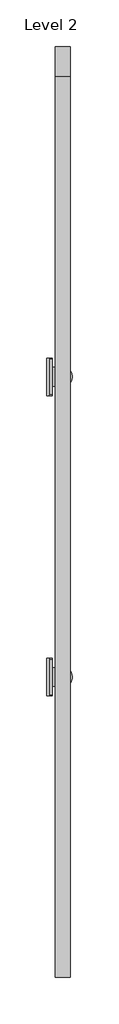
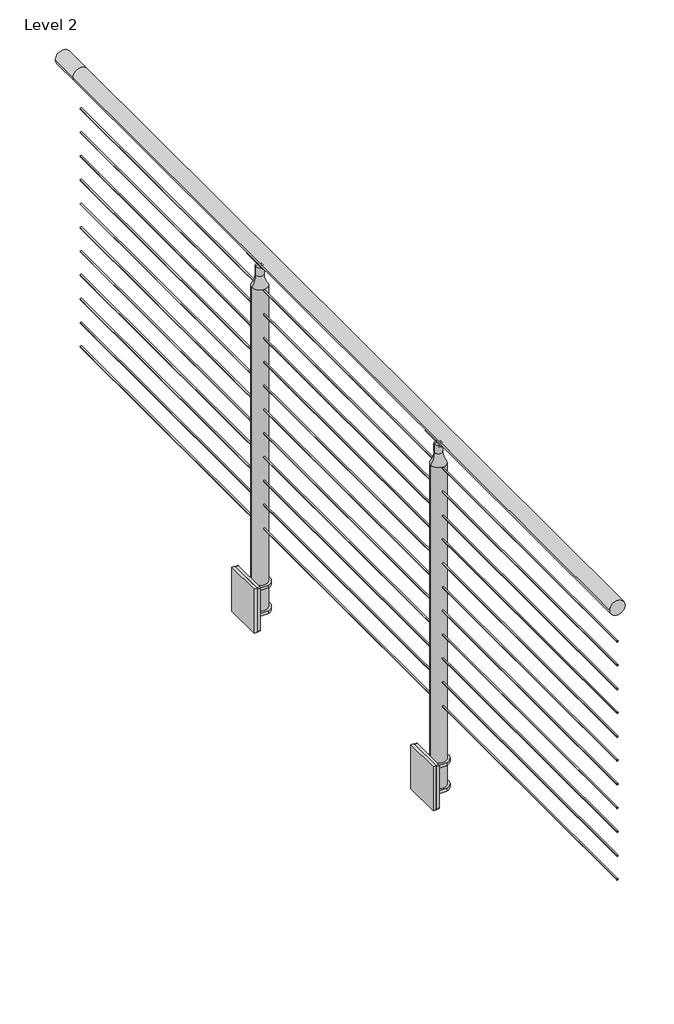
# One storey, part 3 of 21: 1 railing.
"""IFC4 building model written with IfcOpenShell, lengths in millimetres."""

from ifc_helpers import new_model, si_unit, point, frame, frame_2d, origin, place, context, project, spatial, polyline, circle_curve, ellipse_curve, trimmed, segment, composite_curve, outline, extrude, element, save
from ifc_brep_helpers import plane_surface, cylinder_surface, revolved_surface, advanced_brep

model = new_model("IFC4")

# Units and contexts
model_context = context("Model", 3, world=origin())
ifc_project = project(units=[si_unit("LENGTHUNIT", "METRE", prefix="MILLI")], contexts=[model_context])

# Site, building, storey
site = spatial("IfcSite", under=ifc_project)
building = spatial("IfcBuilding", under=site)
storey = spatial("IfcBuildingStorey", under=building, Name="Level 2", Elevation=3048.0)

# Railing
placement = place(None, origin())
element("IfcRailing", 1, ObjectType="VIVA-CIRCA-Cable-Fascia Mount-Straight", at=placement, inside=storey, context=model_context, shape_type="SolidModel", body=[
    advanced_brep(
    [(-3550.7164794, -51790.9556522, 4102.1), (-3601.5164794, -51790.9556522, 4102.1), (-3550.7164794, -48742.9556522, 4102.1), (-3601.5164794, -48742.9556522, 4102.1), (-3550.7164794, -48641.3556522, 4102.1), (-3601.5164794, -48641.3556522, 4102.1)],
    [
        (0, 1, circle_curve(frame((-3576.1164794, -51790.9556522, 4102.1), z_axis=(0.0, -1.0, 0.0), x_axis=(-1.0, 0.0, 0.0)), 25.4)),
        (1, 0, circle_curve(frame((-3576.1164794, -51790.9556522, 4102.1), z_axis=(0.0, -1.0, 0.0), x_axis=(-1.0, 0.0, 0.0)), 25.4)),
        (0, 2),
        (2, 3, circle_curve(frame((-3576.1164794, -48742.9556522, 4102.1), z_axis=(0.0, -1.0, 0.0), x_axis=(-1.0, 0.0, 0.0)), 25.4)),
        (3, 1),
        (3, 2, circle_curve(frame((-3576.1164794, -48742.9556522, 4102.1), z_axis=(0.0, -1.0, 0.0), x_axis=(-1.0, 0.0, 0.0)), 25.4)),
        (4, 5, circle_curve(frame((-3576.1164794, -48641.3556522, 4102.1), z_axis=(0.0, 1.0, 0.0), x_axis=(-1.0, 0.0, 0.0)), 25.4)),
        (5, 4, circle_curve(frame((-3576.1164794, -48641.3556522, 4102.1), z_axis=(0.0, 1.0, 0.0), x_axis=(-1.0, 0.0, 0.0)), 25.4)),
        (2, 4),
        (5, 3),
    ],
    [
        plane_surface(frame((-3576.1164794, -51790.9556522, 4127.5), z_axis=(0.0, -1.0, 0.0), x_axis=(0.0, 0.0, 1.0))),
        cylinder_surface(frame((-3576.1164794, -51790.9556522, 4102.1), z_axis=(0.0, -1.0, 0.0), x_axis=(-1.0, 0.0, 0.0)), 25.4),
        plane_surface(frame((-3576.1164794, -48641.3556522, 4127.5), z_axis=(0.0, 1.0, 0.0), x_axis=(0.0, 0.0, 1.0))),
        cylinder_surface(frame((-3576.1164794, -48742.9556522, 4102.1), z_axis=(0.0, -1.0, 0.0), x_axis=(-1.0, 0.0, 0.0)), 25.4),
    ],
    [
        (0, [[1, 2]]),
        (1, [[-1, 3, 4, 5]]),
        (1, [[-2, -5, 6, -3]]),
        (2, [[7, 8]]),
        (3, [[-4, 9, -8, 10]]),
        (3, [[-6, -10, -7, -9]]),
    ],
),
    extrude(outline(composite_curve([segment(trimmed(circle_curve(frame_2d((3985.4124, -3576.1164794)), 2.3876), [point((3985.4124, -3578.5040794))], [point((3985.4124, -3573.7288794))], False, "CARTESIAN"), True, "CONTINUOUS"), segment(trimmed(circle_curve(frame_2d((3985.4124, -3576.1164794)), 2.3876), [point((3985.4124, -3573.7288794))], [point((3985.4124, -3578.5040794))], False, "CARTESIAN"), True, "CONTINUOUS")], self_intersect=False)), frame((0.0, -51790.9556522, 0.0), z_axis=(0.0, 1.0, 0.0), x_axis=(0.0, 0.0, 1.0)), (0.0, 0.0, 1.0), 3048.0),
    extrude(outline(composite_curve([segment(trimmed(circle_curve(frame_2d((3902.8624, -3576.1164794)), 2.3876), [point((3902.8624, -3578.5040794))], [point((3902.8624, -3573.7288794))], False, "CARTESIAN"), True, "CONTINUOUS"), segment(trimmed(circle_curve(frame_2d((3902.8624, -3576.1164794)), 2.3876), [point((3902.8624, -3573.7288794))], [point((3902.8624, -3578.5040794))], False, "CARTESIAN"), True, "CONTINUOUS")], self_intersect=False)), frame((0.0, -51790.9556522, 0.0), z_axis=(0.0, 1.0, 0.0), x_axis=(0.0, 0.0, 1.0)), (0.0, 0.0, 1.0), 3048.0),
    extrude(outline(composite_curve([segment(trimmed(circle_curve(frame_2d((3820.3124, -3576.1164794)), 2.3876), [point((3820.3124, -3578.5040794))], [point((3820.3124, -3573.7288794))], False, "CARTESIAN"), True, "CONTINUOUS"), segment(trimmed(circle_curve(frame_2d((3820.3124, -3576.1164794)), 2.3876), [point((3820.3124, -3573.7288794))], [point((3820.3124, -3578.5040794))], False, "CARTESIAN"), True, "CONTINUOUS")], self_intersect=False)), frame((0.0, -51790.9556522, 0.0), z_axis=(0.0, 1.0, 0.0), x_axis=(0.0, 0.0, 1.0)), (0.0, 0.0, 1.0), 3048.0),
    extrude(outline(composite_curve([segment(trimmed(circle_curve(frame_2d((3737.7624, -3576.1164794)), 2.3876), [point((3737.7624, -3578.5040794))], [point((3737.7624, -3573.7288794))], False, "CARTESIAN"), True, "CONTINUOUS"), segment(trimmed(circle_curve(frame_2d((3737.7624, -3576.1164794)), 2.3876), [point((3737.7624, -3573.7288794))], [point((3737.7624, -3578.5040794))], False, "CARTESIAN"), True, "CONTINUOUS")], self_intersect=False)), frame((0.0, -51790.9556522, 0.0), z_axis=(0.0, 1.0, 0.0), x_axis=(0.0, 0.0, 1.0)), (0.0, 0.0, 1.0), 3048.0),
    extrude(outline(composite_curve([segment(trimmed(circle_curve(frame_2d((3655.2124, -3576.1164794)), 2.3876), [point((3655.2124, -3578.5040794))], [point((3655.2124, -3573.7288794))], False, "CARTESIAN"), True, "CONTINUOUS"), segment(trimmed(circle_curve(frame_2d((3655.2124, -3576.1164794)), 2.3876), [point((3655.2124, -3573.7288794))], [point((3655.2124, -3578.5040794))], False, "CARTESIAN"), True, "CONTINUOUS")], self_intersect=False)), frame((0.0, -51790.9556522, 0.0), z_axis=(0.0, 1.0, 0.0), x_axis=(0.0, 0.0, 1.0)), (0.0, 0.0, 1.0), 3048.0),
    extrude(outline(composite_curve([segment(trimmed(circle_curve(frame_2d((3572.6624, -3576.1164794)), 2.3876), [point((3572.6624, -3578.5040794))], [point((3572.6624, -3573.7288794))], False, "CARTESIAN"), True, "CONTINUOUS"), segment(trimmed(circle_curve(frame_2d((3572.6624, -3576.1164794)), 2.3876), [point((3572.6624, -3573.7288794))], [point((3572.6624, -3578.5040794))], False, "CARTESIAN"), True, "CONTINUOUS")], self_intersect=False)), frame((0.0, -51790.9556522, 0.0), z_axis=(0.0, 1.0, 0.0), x_axis=(0.0, 0.0, 1.0)), (0.0, 0.0, 1.0), 3048.0),
    extrude(outline(composite_curve([segment(trimmed(circle_curve(frame_2d((3490.1124, -3576.1164794)), 2.3876), [point((3490.1124, -3578.5040794))], [point((3490.1124, -3573.7288794))], False, "CARTESIAN"), True, "CONTINUOUS"), segment(trimmed(circle_curve(frame_2d((3490.1124, -3576.1164794)), 2.3876), [point((3490.1124, -3573.7288794))], [point((3490.1124, -3578.5040794))], False, "CARTESIAN"), True, "CONTINUOUS")], self_intersect=False)), frame((0.0, -51790.9556522, 0.0), z_axis=(0.0, 1.0, 0.0), x_axis=(0.0, 0.0, 1.0)), (0.0, 0.0, 1.0), 3048.0),
    extrude(outline(composite_curve([segment(trimmed(circle_curve(frame_2d((3407.5624, -3576.1164794)), 2.3876), [point((3407.5624, -3578.5040794))], [point((3407.5624, -3573.7288794))], False, "CARTESIAN"), True, "CONTINUOUS"), segment(trimmed(circle_curve(frame_2d((3407.5624, -3576.1164794)), 2.3876), [point((3407.5624, -3573.7288794))], [point((3407.5624, -3578.5040794))], False, "CARTESIAN"), True, "CONTINUOUS")], self_intersect=False)), frame((0.0, -51790.9556522, 0.0), z_axis=(0.0, 1.0, 0.0), x_axis=(0.0, 0.0, 1.0)), (0.0, 0.0, 1.0), 3048.0),
    extrude(outline(composite_curve([segment(trimmed(circle_curve(frame_2d((3325.0124, -3576.1164794)), 2.3876), [point((3325.0124, -3578.5040794))], [point((3325.0124, -3573.7288794))], False, "CARTESIAN"), True, "CONTINUOUS"), segment(trimmed(circle_curve(frame_2d((3325.0124, -3576.1164794)), 2.3876), [point((3325.0124, -3573.7288794))], [point((3325.0124, -3578.5040794))], False, "CARTESIAN"), True, "CONTINUOUS")], self_intersect=False)), frame((0.0, -51790.9556522, 0.0), z_axis=(0.0, 1.0, 0.0), x_axis=(0.0, 0.0, 1.0)), (0.0, 0.0, 1.0), 3048.0),
    extrude(outline(composite_curve([segment(trimmed(circle_curve(frame_2d((3242.4624, -3576.1164794)), 2.3876), [point((3242.4624, -3578.5040794))], [point((3242.4624, -3573.7288794))], False, "CARTESIAN"), True, "CONTINUOUS"), segment(trimmed(circle_curve(frame_2d((3242.4624, -3576.1164794)), 2.3876), [point((3242.4624, -3573.7288794))], [point((3242.4624, -3578.5040794))], False, "CARTESIAN"), True, "CONTINUOUS")], self_intersect=False)), frame((0.0, -51790.9556522, 0.0), z_axis=(0.0, 1.0, 0.0), x_axis=(0.0, 0.0, 1.0)), (0.0, 0.0, 1.0), 3048.0),
    extrude(outline(composite_curve([segment(trimmed(circle_curve(frame_2d((3159.9124, -3576.1164794)), 2.3876), [point((3159.9124, -3578.5040794))], [point((3159.9124, -3573.7288794))], False, "CARTESIAN"), True, "CONTINUOUS"), segment(trimmed(circle_curve(frame_2d((3159.9124, -3576.1164794)), 2.3876), [point((3159.9124, -3573.7288794))], [point((3159.9124, -3578.5040794))], False, "CARTESIAN"), True, "CONTINUOUS")], self_intersect=False)), frame((0.0, -51790.9556522, 0.0), z_axis=(0.0, 1.0, 0.0), x_axis=(0.0, 0.0, 1.0)), (0.0, 0.0, 1.0), 3048.0),
    extrude(outline(composite_curve([segment(trimmed(circle_curve(frame_2d((4103.4254922, -3576.2132077)), 25.4345159), [point((4081.3106679, -3563.6494049))], [point((4081.2157471, -3588.6084415))], True, "CARTESIAN"), True, "CONTINUOUS"), segment(trimmed(circle_curve(frame_2d((4078.7132623, -3589.8530946)), 2.7949225), [point((4081.2157471, -3588.6084415))], [point((4076.3406769, -3591.3303997))], False, "CARTESIAN"), True, "CONTINUOUS"), segment(trimmed(circle_curve(frame_2d((4104.1881188, -3576.0797447)), 31.75), [point((4076.3406769, -3591.3303997))], [point((4076.9214354, -3559.8135074))], False, "CARTESIAN"), True, "CONTINUOUS"), segment(trimmed(circle_curve(frame_2d((4078.7923545, -3562.1018472)), 2.9558141), [point((4076.9214354, -3559.8135074))], [point((4081.3106679, -3563.6494049))], False, "CARTESIAN"), True, "CONTINUOUS")], self_intersect=False)), frame((0.0, -49803.7961772, 0.0), z_axis=(0.0, 1.0, 0.0), x_axis=(0.0, 0.0, 1.0)), (0.0, 0.0, 1.0), 90.4748),
    advanced_brep(
    [(-3578.6564794, -49731.4908623, 4072.6506908), (-3578.6564794, -49745.8587772, 4058.282776), (-3578.6564794, -49771.2587772, 4058.282776), (-3578.6564794, -49785.626692, 4072.6506908), (-3573.5764794, -49731.4908623, 4072.6506908), (-3573.5764794, -49785.626692, 4072.6506908), (-3573.5764794, -49771.2587772, 4058.282776), (-3573.5764794, -49745.8587772, 4058.282776)],
    [
        (0, 1, circle_curve(frame((-3578.6564794, -49731.4908623, 4058.282776), z_axis=(1.0, 0.0, 0.0), x_axis=(0.0, -1.0, 0.0)), 14.3679149)),
        (1, 2, circle_curve(frame((-3578.6564794, -49758.5587772, 4058.282776), z_axis=(-1.0, 0.0, 0.0), x_axis=(0.0, -1.0, 0.0)), 12.7)),
        (2, 3, circle_curve(frame((-3578.6564794, -49785.626692, 4058.282776), z_axis=(1.0, 0.0, 0.0), x_axis=(0.0, -1.0, 0.0)), 14.3679149)),
        (3, 0),
        (4, 5),
        (5, 6, circle_curve(frame((-3573.5764794, -49785.626692, 4058.282776), z_axis=(-1.0, 0.0, 0.0), x_axis=(0.0, -1.0, 0.0)), 14.3679149)),
        (6, 7, circle_curve(frame((-3573.5764794, -49758.5587772, 4058.282776), z_axis=(1.0, 0.0, 0.0), x_axis=(0.0, -1.0, 0.0)), 12.7)),
        (7, 4, circle_curve(frame((-3573.5764794, -49731.4908623, 4058.282776), z_axis=(-1.0, 0.0, 0.0), x_axis=(0.0, -1.0, 0.0)), 14.3679149)),
        (0, 4),
        (7, 1),
        (6, 2),
        (5, 3),
    ],
    [
        plane_surface(frame((-3578.6564794, -49745.8587772, 4058.282776), z_axis=(-1.0, 0.0, 0.0), x_axis=(0.0, 0.0, -1.0))),
        plane_surface(frame((-3573.5764794, -49745.8587772, 4058.282776), z_axis=(1.0, 0.0, 0.0), x_axis=(0.0, 0.0, 1.0))),
        revolved_surface(polyline([(-3573.5764794, -49745.8587772, 4058.282776), (-3578.6564794, -49745.8587772, 4058.282776)]), (-3573.5764794, -49731.4908623, 4058.282776), (1.0, 0.0, 0.0)),
        cylinder_surface(frame((-3573.5764794, -49758.5587772, 4058.282776), z_axis=(-1.0, 0.0, 0.0), x_axis=(0.0, -1.0, 0.0)), 12.7),
        revolved_surface(polyline([(-3573.5764794, -49799.9946069, 4058.282776), (-3578.6564794, -49799.9946069, 4058.282776)]), (-3573.5764794, -49785.626692, 4058.282776), (1.0, 0.0, 0.0)),
        plane_surface(frame((-3578.6564794, -49785.626692, 4072.6506908), z_axis=(0.0, 0.0, 1.0), x_axis=(1.0, 0.0, 0.0))),
    ],
    [
        (0, [[1, 2, 3, 4]]),
        (1, [[5, 6, 7, 8]]),
        (2, [[-1, 9, -8, 10]]),
        (3, [[-2, -10, -7, 11]]),
        (4, [[-3, -11, -6, 12]]),
        (5, [[-4, -12, -5, -9]]),
    ],
),
    extrude(outline(polyline([(-3630.629515, -49695.0587772), (-3620.647315, -49695.0587772), (-3620.647315, -49822.0587772), (-3630.629515, -49822.0587772), (-3630.629515, -49695.0587772)])), frame((0.0, 0.0, 2838.45), z_axis=(0.0, 0.0, 1.0), x_axis=(1.0, 0.0, 0.0)), (0.0, 0.0, 1.0), 152.4),
    extrude(outline(composite_curve([segment(polyline([(-3620.647315, -49790.3087772), (-3620.647315, -49726.8087772), (-3566.9202979, -49726.8087772)]), True, "CONTINUOUS"), segment(trimmed(circle_curve(frame_2d((-3576.1164794, -49758.5587772)), 33.0549883), [point((-3566.9202979, -49726.8087772))], [point((-3566.9202979, -49790.3087772))], False, "CARTESIAN"), True, "CONTINUOUS"), segment(polyline([(-3566.9202979, -49790.3087772), (-3620.647315, -49790.3087772)]), True, "CONTINUOUS")], self_intersect=False)), frame((0.0, 0.0, 2865.4375), z_axis=(0.0, 0.0, 1.0), x_axis=(1.0, 0.0, 0.0)), (0.0, 0.0, 1.0), 9.525),
    extrude(outline(composite_curve([segment(polyline([(-3620.647315, -49790.3087772), (-3620.647315, -49726.8087772), (-3566.9202979, -49726.8087772)]), True, "CONTINUOUS"), segment(trimmed(circle_curve(frame_2d((-3576.1164794, -49758.5587772)), 33.0549883), [point((-3566.9202979, -49726.8087772))], [point((-3566.9202979, -49790.3087772))], False, "CARTESIAN"), True, "CONTINUOUS"), segment(polyline([(-3566.9202979, -49790.3087772), (-3620.647315, -49790.3087772)]), True, "CONTINUOUS")], self_intersect=False)), frame((0.0, 0.0, 2954.3375), z_axis=(0.0, 0.0, 1.0), x_axis=(1.0, 0.0, 0.0)), (0.0, 0.0, 1.0), 9.525),
    extrude(outline(composite_curve([segment(trimmed(circle_curve(frame_2d((-49697.5987772, 2988.31)), 2.54), [point((-49697.5987772, 2990.85))], [point((-49695.0587772, 2988.31))], False, "CARTESIAN"), True, "CONTINUOUS"), segment(polyline([(-49695.0587772, 2988.31), (-49695.0587772, 2840.99)]), True, "CONTINUOUS"), segment(trimmed(circle_curve(frame_2d((-49697.5987772, 2840.99)), 2.54), [point((-49695.0587772, 2840.99))], [point((-49697.5987772, 2838.45))], False, "CARTESIAN"), True, "CONTINUOUS"), segment(polyline([(-49697.5987772, 2838.45), (-49819.5187772, 2838.45)]), True, "CONTINUOUS"), segment(trimmed(circle_curve(frame_2d((-49819.5187772, 2840.99)), 2.54), [point((-49819.5187772, 2838.45))], [point((-49822.0587772, 2840.99))], False, "CARTESIAN"), True, "CONTINUOUS"), segment(polyline([(-49822.0587772, 2840.99), (-49822.0587772, 2988.31)]), True, "CONTINUOUS"), segment(trimmed(circle_curve(frame_2d((-49819.5187772, 2988.31)), 2.54), [point((-49822.0587772, 2988.31))], [point((-49819.5187772, 2990.85))], False, "CARTESIAN"), True, "CONTINUOUS"), segment(polyline([(-49819.5187772, 2990.85), (-49697.5987772, 2990.85)]), True, "CONTINUOUS")], self_intersect=False), holes=[composite_curve([segment(trimmed(circle_curve(frame_2d((-49803.0087772, 2971.8)), 5.55625), [point((-49797.4525272, 2971.8))], [point((-49808.5650272, 2971.8))], True, "CARTESIAN"), True, "CONTINUOUS"), segment(trimmed(circle_curve(frame_2d((-49803.0087772, 2971.8)), 5.55625), [point((-49808.5650272, 2971.8))], [point((-49797.4525272, 2971.8))], True, "CARTESIAN"), True, "CONTINUOUS")], self_intersect=False), composite_curve([segment(trimmed(circle_curve(frame_2d((-49714.1087772, 2971.8)), 5.55625), [point((-49708.5525272, 2971.8))], [point((-49719.6650272, 2971.8))], True, "CARTESIAN"), True, "CONTINUOUS"), segment(trimmed(circle_curve(frame_2d((-49714.1087772, 2971.8)), 5.55625), [point((-49719.6650272, 2971.8))], [point((-49708.5525272, 2971.8))], True, "CARTESIAN"), True, "CONTINUOUS")], self_intersect=False), composite_curve([segment(trimmed(circle_curve(frame_2d((-49714.1087772, 2857.5)), 5.55625), [point((-49708.5525272, 2857.5))], [point((-49719.6650272, 2857.5))], True, "CARTESIAN"), True, "CONTINUOUS"), segment(trimmed(circle_curve(frame_2d((-49714.1087772, 2857.5)), 5.55625), [point((-49719.6650272, 2857.5))], [point((-49708.5525272, 2857.5))], True, "CARTESIAN"), True, "CONTINUOUS")], self_intersect=False), composite_curve([segment(trimmed(circle_curve(frame_2d((-49803.0087772, 2857.5)), 5.55625), [point((-49797.4525272, 2857.5))], [point((-49808.5650272, 2857.5))], True, "CARTESIAN"), True, "CONTINUOUS"), segment(trimmed(circle_curve(frame_2d((-49803.0087772, 2857.5)), 5.55625), [point((-49808.5650272, 2857.5))], [point((-49797.4525272, 2857.5))], True, "CARTESIAN"), True, "CONTINUOUS")], self_intersect=False)]), frame((-3620.647315, 0.0, 0.0), z_axis=(1.0, 0.0, 0.0), x_axis=(0.0, 1.0, 0.0)), (0.0, 0.0, 1.0), 9.9822),
    advanced_brep(
    [(-3550.7170816, -49758.5587772, 3989.1347854), (-3601.5158772, -49758.5587772, 3989.1347854), (-3601.5158772, -49758.5587772, 2874.9498), (-3550.7170816, -49758.5587772, 2874.9498), (-3563.3785108, -49758.5587772, 4027.3486202), (-3588.8544479, -49758.5587772, 4027.3486202), (-3563.3785108, -49758.5587772, 4056.5779599), (-3588.8544479, -49758.5587772, 4056.5779599), (-3576.1164794, -49758.5587772, 4063.238668), (-3576.1164794, -49758.5587772, 2874.9498)],
    [
        (0, 1, circle_curve(frame((-3576.1164794, -49758.5587772, 3989.1347854), z_axis=(0.0, 0.0, -1.0), x_axis=(-1.0, 0.0, 0.0)), 25.3993978)),
        (1, 2),
        (2, 3, circle_curve(frame((-3576.1164794, -49758.5587772, 2874.9498), z_axis=(0.0, 0.0, 1.0), x_axis=(-1.0, 0.0, 0.0)), 25.3993978)),
        (3, 0),
        (1, 0, circle_curve(frame((-3576.1164794, -49758.5587772, 3989.1347854), z_axis=(0.0, 0.0, -1.0), x_axis=(-1.0, 0.0, 0.0)), 25.3993978)),
        (3, 2, circle_curve(frame((-3576.1164794, -49758.5587772, 2874.9498), z_axis=(0.0, 0.0, 1.0), x_axis=(-1.0, 0.0, 0.0)), 25.3993978)),
        (4, 5, circle_curve(frame((-3576.1164794, -49758.5587772, 4027.3486202), z_axis=(0.0, 0.0, -1.0), x_axis=(-1.0, 0.0, 0.0)), 12.7379685)),
        (5, 1, circle_curve(frame((-3652.8523162, -49758.5587772, 4027.3486202), z_axis=(0.0, 1.0, 0.0), x_axis=(-1.0, 0.0, 0.0)), 63.9978683)),
        (0, 4, circle_curve(frame((-3499.3806425, -49758.5587772, 4027.3486202), z_axis=(0.0, 1.0, 0.0), x_axis=(1.0, 0.0, 0.0)), 63.9978683)),
        (5, 4, circle_curve(frame((-3576.1164794, -49758.5587772, 4027.3486202), z_axis=(0.0, 0.0, -1.0), x_axis=(-1.0, 0.0, 0.0)), 12.7379685)),
        (6, 7, circle_curve(frame((-3576.1164794, -49758.5587772, 4056.5779599), z_axis=(0.0, 0.0, -1.0), x_axis=(-1.0, 0.0, 0.0)), 12.7379685)),
        (7, 5),
        (4, 6),
        (7, 6, circle_curve(frame((-3576.1164794, -49758.5587772, 4056.5779599), z_axis=(0.0, 0.0, -1.0), x_axis=(-1.0, 0.0, 0.0)), 12.7379685)),
        (8, 7, circle_curve(frame((-3576.1164794, -49758.5587772, 4047.7282394), z_axis=(0.0, -1.0, 0.0), x_axis=(-1.0, 0.0, 0.0)), 15.5104286)),
        (6, 8, circle_curve(frame((-3576.1164794, -49758.5587772, 4047.7282394), z_axis=(0.0, -1.0, 0.0), x_axis=(1.0, 0.0, 0.0)), 15.5104286)),
        (2, 9),
        (9, 3),
    ],
    [
        cylinder_surface(frame((-3576.1164794, -49758.5587772, 4152.9), z_axis=(0.0, 0.0, 1.0), x_axis=(-1.0, 0.0, 0.0)), 25.3993978),
        revolved_surface(trimmed(ellipse_curve(frame((-3652.8523162, -49758.5587772, 4027.3486202), z_axis=(0.0, -1.0, 0.0), x_axis=(-1.0, 0.0, 0.0)), 63.9978683, 63.9978683), [point((-3601.5158772, -49758.5587772, 3989.1347854))], [point((-3588.8544479, -49758.5587772, 4027.3486202))], True, "CARTESIAN"), (-3576.1164794, -49758.5587772, 4152.9), (0.0, 0.0, 1.0)),
        cylinder_surface(frame((-3576.1164794, -49758.5587772, 4152.9), z_axis=(0.0, 0.0, 1.0), x_axis=(-1.0, 0.0, 0.0)), 12.7379685),
        revolved_surface(trimmed(ellipse_curve(frame((-3576.1164794, -49758.5587772, 4047.7282394), z_axis=(0.0, 1.0, 0.0), x_axis=(-1.0, 0.0, 0.0)), 15.5104286, 15.5104286), [point((-3588.8544479, -49758.5587772, 4056.5779599))], [point((-3576.1164794, -49758.5587772, 4063.238668))], True, "CARTESIAN"), (-3576.1164794, -49758.5587772, 4152.9), (0.0, 0.0, 1.0)),
        plane_surface(frame((-3576.1164794, -49758.5587772, 2874.9498), z_axis=(0.0, 0.0, -1.0), x_axis=(-1.0, 0.0, 0.0))),
    ],
    [
        (0, [[1, 2, 3, 4]]),
        (0, [[5, -4, 6, -2]]),
        (1, [[7, 8, -1, 9]]),
        (1, [[10, -9, -5, -8]]),
        (2, [[11, 12, -7, 13]]),
        (2, [[14, -13, -10, -12]]),
        (3, [[15, -11, 16]]),
        (3, [[-16, -14, -15]]),
        (4, [[-3, 17, 18]]),
        (4, [[-6, -18, -17]]),
    ],
),
    extrude(outline(composite_curve([segment(trimmed(circle_curve(frame_2d((4103.4254922, -3576.2132077)), 25.4345159), [point((4081.3106679, -3563.6494049))], [point((4081.2157471, -3588.6084415))], True, "CARTESIAN"), True, "CONTINUOUS"), segment(trimmed(circle_curve(frame_2d((4078.7132623, -3589.8530946)), 2.7949225), [point((4081.2157471, -3588.6084415))], [point((4076.3406769, -3591.3303997))], False, "CARTESIAN"), True, "CONTINUOUS"), segment(trimmed(circle_curve(frame_2d((4104.1881188, -3576.0797447)), 31.75), [point((4076.3406769, -3591.3303997))], [point((4076.9214354, -3559.8135074))], False, "CARTESIAN"), True, "CONTINUOUS"), segment(trimmed(circle_curve(frame_2d((4078.7923545, -3562.1018472)), 2.9558141), [point((4076.9214354, -3559.8135074))], [point((4081.3106679, -3563.6494049))], False, "CARTESIAN"), True, "CONTINUOUS")], self_intersect=False)), frame((0.0, -50819.7961772, 0.0), z_axis=(0.0, 1.0, 0.0), x_axis=(0.0, 0.0, 1.0)), (0.0, 0.0, 1.0), 90.4748),
    advanced_brep(
    [(-3578.6564794, -50747.4908623, 4072.6506908), (-3578.6564794, -50761.8587772, 4058.282776), (-3578.6564794, -50787.2587772, 4058.282776), (-3578.6564794, -50801.626692, 4072.6506908), (-3573.5764794, -50747.4908623, 4072.6506908), (-3573.5764794, -50801.626692, 4072.6506908), (-3573.5764794, -50787.2587772, 4058.282776), (-3573.5764794, -50761.8587772, 4058.282776)],
    [
        (0, 1, circle_curve(frame((-3578.6564794, -50747.4908623, 4058.282776), z_axis=(1.0, 0.0, 0.0), x_axis=(0.0, -1.0, 0.0)), 14.3679149)),
        (1, 2, circle_curve(frame((-3578.6564794, -50774.5587772, 4058.282776), z_axis=(-1.0, 0.0, 0.0), x_axis=(0.0, -1.0, 0.0)), 12.7)),
        (2, 3, circle_curve(frame((-3578.6564794, -50801.626692, 4058.282776), z_axis=(1.0, 0.0, 0.0), x_axis=(0.0, -1.0, 0.0)), 14.3679149)),
        (3, 0),
        (4, 5),
        (5, 6, circle_curve(frame((-3573.5764794, -50801.626692, 4058.282776), z_axis=(-1.0, 0.0, 0.0), x_axis=(0.0, -1.0, 0.0)), 14.3679149)),
        (6, 7, circle_curve(frame((-3573.5764794, -50774.5587772, 4058.282776), z_axis=(1.0, 0.0, 0.0), x_axis=(0.0, -1.0, 0.0)), 12.7)),
        (7, 4, circle_curve(frame((-3573.5764794, -50747.4908623, 4058.282776), z_axis=(-1.0, 0.0, 0.0), x_axis=(0.0, -1.0, 0.0)), 14.3679149)),
        (0, 4),
        (7, 1),
        (6, 2),
        (5, 3),
    ],
    [
        plane_surface(frame((-3578.6564794, -50761.8587772, 4058.282776), z_axis=(-1.0, 0.0, 0.0), x_axis=(0.0, 0.0, -1.0))),
        plane_surface(frame((-3573.5764794, -50761.8587772, 4058.282776), z_axis=(1.0, 0.0, 0.0), x_axis=(0.0, 0.0, 1.0))),
        revolved_surface(polyline([(-3573.5764794, -50761.8587772, 4058.282776), (-3578.6564794, -50761.8587772, 4058.282776)]), (-3573.5764794, -50747.4908623, 4058.282776), (1.0, 0.0, 0.0)),
        cylinder_surface(frame((-3573.5764794, -50774.5587772, 4058.282776), z_axis=(-1.0, 0.0, 0.0), x_axis=(0.0, -1.0, 0.0)), 12.7),
        revolved_surface(polyline([(-3573.5764794, -50815.9946069, 4058.282776), (-3578.6564794, -50815.9946069, 4058.282776)]), (-3573.5764794, -50801.626692, 4058.282776), (1.0, 0.0, 0.0)),
        plane_surface(frame((-3578.6564794, -50801.626692, 4072.6506908), z_axis=(0.0, 0.0, 1.0), x_axis=(1.0, 0.0, 0.0))),
    ],
    [
        (0, [[1, 2, 3, 4]]),
        (1, [[5, 6, 7, 8]]),
        (2, [[-1, 9, -8, 10]]),
        (3, [[-2, -10, -7, 11]]),
        (4, [[-3, -11, -6, 12]]),
        (5, [[-4, -12, -5, -9]]),
    ],
),
    extrude(outline(polyline([(-3630.629515, -50711.0587772), (-3620.647315, -50711.0587772), (-3620.647315, -50838.0587772), (-3630.629515, -50838.0587772), (-3630.629515, -50711.0587772)])), frame((0.0, 0.0, 2838.45), z_axis=(0.0, 0.0, 1.0), x_axis=(1.0, 0.0, 0.0)), (0.0, 0.0, 1.0), 152.4),
    extrude(outline(composite_curve([segment(polyline([(-3620.647315, -50806.3087772), (-3620.647315, -50742.8087772), (-3566.9202979, -50742.8087772)]), True, "CONTINUOUS"), segment(trimmed(circle_curve(frame_2d((-3576.1164794, -50774.5587772)), 33.0549883), [point((-3566.9202979, -50742.8087772))], [point((-3566.9202979, -50806.3087772))], False, "CARTESIAN"), True, "CONTINUOUS"), segment(polyline([(-3566.9202979, -50806.3087772), (-3620.647315, -50806.3087772)]), True, "CONTINUOUS")], self_intersect=False)), frame((0.0, 0.0, 2865.4375), z_axis=(0.0, 0.0, 1.0), x_axis=(1.0, 0.0, 0.0)), (0.0, 0.0, 1.0), 9.525),
    extrude(outline(composite_curve([segment(polyline([(-3620.647315, -50806.3087772), (-3620.647315, -50742.8087772), (-3566.9202979, -50742.8087772)]), True, "CONTINUOUS"), segment(trimmed(circle_curve(frame_2d((-3576.1164794, -50774.5587772)), 33.0549883), [point((-3566.9202979, -50742.8087772))], [point((-3566.9202979, -50806.3087772))], False, "CARTESIAN"), True, "CONTINUOUS"), segment(polyline([(-3566.9202979, -50806.3087772), (-3620.647315, -50806.3087772)]), True, "CONTINUOUS")], self_intersect=False)), frame((0.0, 0.0, 2954.3375), z_axis=(0.0, 0.0, 1.0), x_axis=(1.0, 0.0, 0.0)), (0.0, 0.0, 1.0), 9.525),
    extrude(outline(composite_curve([segment(trimmed(circle_curve(frame_2d((-50713.5987772, 2988.31)), 2.54), [point((-50713.5987772, 2990.85))], [point((-50711.0587772, 2988.31))], False, "CARTESIAN"), True, "CONTINUOUS"), segment(polyline([(-50711.0587772, 2988.31), (-50711.0587772, 2840.99)]), True, "CONTINUOUS"), segment(trimmed(circle_curve(frame_2d((-50713.5987772, 2840.99)), 2.54), [point((-50711.0587772, 2840.99))], [point((-50713.5987772, 2838.45))], False, "CARTESIAN"), True, "CONTINUOUS"), segment(polyline([(-50713.5987772, 2838.45), (-50835.5187772, 2838.45)]), True, "CONTINUOUS"), segment(trimmed(circle_curve(frame_2d((-50835.5187772, 2840.99)), 2.54), [point((-50835.5187772, 2838.45))], [point((-50838.0587772, 2840.99))], False, "CARTESIAN"), True, "CONTINUOUS"), segment(polyline([(-50838.0587772, 2840.99), (-50838.0587772, 2988.31)]), True, "CONTINUOUS"), segment(trimmed(circle_curve(frame_2d((-50835.5187772, 2988.31)), 2.54), [point((-50838.0587772, 2988.31))], [point((-50835.5187772, 2990.85))], False, "CARTESIAN"), True, "CONTINUOUS"), segment(polyline([(-50835.5187772, 2990.85), (-50713.5987772, 2990.85)]), True, "CONTINUOUS")], self_intersect=False), holes=[composite_curve([segment(trimmed(circle_curve(frame_2d((-50819.0087772, 2971.8)), 5.55625), [point((-50813.4525272, 2971.8))], [point((-50824.5650272, 2971.8))], True, "CARTESIAN"), True, "CONTINUOUS"), segment(trimmed(circle_curve(frame_2d((-50819.0087772, 2971.8)), 5.55625), [point((-50824.5650272, 2971.8))], [point((-50813.4525272, 2971.8))], True, "CARTESIAN"), True, "CONTINUOUS")], self_intersect=False), composite_curve([segment(trimmed(circle_curve(frame_2d((-50730.1087772, 2971.8)), 5.55625), [point((-50724.5525272, 2971.8))], [point((-50735.6650272, 2971.8))], True, "CARTESIAN"), True, "CONTINUOUS"), segment(trimmed(circle_curve(frame_2d((-50730.1087772, 2971.8)), 5.55625), [point((-50735.6650272, 2971.8))], [point((-50724.5525272, 2971.8))], True, "CARTESIAN"), True, "CONTINUOUS")], self_intersect=False), composite_curve([segment(trimmed(circle_curve(frame_2d((-50730.1087772, 2857.5)), 5.55625), [point((-50724.5525272, 2857.5))], [point((-50735.6650272, 2857.5))], True, "CARTESIAN"), True, "CONTINUOUS"), segment(trimmed(circle_curve(frame_2d((-50730.1087772, 2857.5)), 5.55625), [point((-50735.6650272, 2857.5))], [point((-50724.5525272, 2857.5))], True, "CARTESIAN"), True, "CONTINUOUS")], self_intersect=False), composite_curve([segment(trimmed(circle_curve(frame_2d((-50819.0087772, 2857.5)), 5.55625), [point((-50813.4525272, 2857.5))], [point((-50824.5650272, 2857.5))], True, "CARTESIAN"), True, "CONTINUOUS"), segment(trimmed(circle_curve(frame_2d((-50819.0087772, 2857.5)), 5.55625), [point((-50824.5650272, 2857.5))], [point((-50813.4525272, 2857.5))], True, "CARTESIAN"), True, "CONTINUOUS")], self_intersect=False)]), frame((-3620.647315, 0.0, 0.0), z_axis=(1.0, 0.0, 0.0), x_axis=(0.0, 1.0, 0.0)), (0.0, 0.0, 1.0), 9.9822),
    advanced_brep(
    [(-3550.7170816, -50774.5587772, 3989.1347854), (-3601.5158772, -50774.5587772, 3989.1347854), (-3601.5158772, -50774.5587772, 2874.9498), (-3550.7170816, -50774.5587772, 2874.9498), (-3563.3785108, -50774.5587772, 4027.3486202), (-3588.8544479, -50774.5587772, 4027.3486202), (-3563.3785108, -50774.5587772, 4056.5779599), (-3588.8544479, -50774.5587772, 4056.5779599), (-3576.1164794, -50774.5587772, 4063.238668), (-3576.1164794, -50774.5587772, 2874.9498)],
    [
        (0, 1, circle_curve(frame((-3576.1164794, -50774.5587772, 3989.1347854), z_axis=(0.0, 0.0, -1.0), x_axis=(-1.0, 0.0, 0.0)), 25.3993978)),
        (1, 2),
        (2, 3, circle_curve(frame((-3576.1164794, -50774.5587772, 2874.9498), z_axis=(0.0, 0.0, 1.0), x_axis=(-1.0, 0.0, 0.0)), 25.3993978)),
        (3, 0),
        (1, 0, circle_curve(frame((-3576.1164794, -50774.5587772, 3989.1347854), z_axis=(0.0, 0.0, -1.0), x_axis=(-1.0, 0.0, 0.0)), 25.3993978)),
        (3, 2, circle_curve(frame((-3576.1164794, -50774.5587772, 2874.9498), z_axis=(0.0, 0.0, 1.0), x_axis=(-1.0, 0.0, 0.0)), 25.3993978)),
        (4, 5, circle_curve(frame((-3576.1164794, -50774.5587772, 4027.3486202), z_axis=(0.0, 0.0, -1.0), x_axis=(-1.0, 0.0, 0.0)), 12.7379685)),
        (5, 1, circle_curve(frame((-3652.8523162, -50774.5587772, 4027.3486202), z_axis=(0.0, 1.0, 0.0), x_axis=(-1.0, 0.0, 0.0)), 63.9978683)),
        (0, 4, circle_curve(frame((-3499.3806425, -50774.5587772, 4027.3486202), z_axis=(0.0, 1.0, 0.0), x_axis=(1.0, 0.0, 0.0)), 63.9978683)),
        (5, 4, circle_curve(frame((-3576.1164794, -50774.5587772, 4027.3486202), z_axis=(0.0, 0.0, -1.0), x_axis=(-1.0, 0.0, 0.0)), 12.7379685)),
        (6, 7, circle_curve(frame((-3576.1164794, -50774.5587772, 4056.5779599), z_axis=(0.0, 0.0, -1.0), x_axis=(-1.0, 0.0, 0.0)), 12.7379685)),
        (7, 5),
        (4, 6),
        (7, 6, circle_curve(frame((-3576.1164794, -50774.5587772, 4056.5779599), z_axis=(0.0, 0.0, -1.0), x_axis=(-1.0, 0.0, 0.0)), 12.7379685)),
        (8, 7, circle_curve(frame((-3576.1164794, -50774.5587772, 4047.7282394), z_axis=(0.0, -1.0, 0.0), x_axis=(-1.0, 0.0, 0.0)), 15.5104286)),
        (6, 8, circle_curve(frame((-3576.1164794, -50774.5587772, 4047.7282394), z_axis=(0.0, -1.0, 0.0), x_axis=(1.0, 0.0, 0.0)), 15.5104286)),
        (2, 9),
        (9, 3),
    ],
    [
        cylinder_surface(frame((-3576.1164794, -50774.5587772, 4152.9), z_axis=(0.0, 0.0, 1.0), x_axis=(-1.0, 0.0, 0.0)), 25.3993978),
        revolved_surface(trimmed(ellipse_curve(frame((-3652.8523162, -50774.5587772, 4027.3486202), z_axis=(0.0, -1.0, 0.0), x_axis=(-1.0, 0.0, 0.0)), 63.9978683, 63.9978683), [point((-3601.5158772, -50774.5587772, 3989.1347854))], [point((-3588.8544479, -50774.5587772, 4027.3486202))], True, "CARTESIAN"), (-3576.1164794, -50774.5587772, 4152.9), (0.0, 0.0, 1.0)),
        cylinder_surface(frame((-3576.1164794, -50774.5587772, 4152.9), z_axis=(0.0, 0.0, 1.0), x_axis=(-1.0, 0.0, 0.0)), 12.7379685),
        revolved_surface(trimmed(ellipse_curve(frame((-3576.1164794, -50774.5587772, 4047.7282394), z_axis=(0.0, 1.0, 0.0), x_axis=(-1.0, 0.0, 0.0)), 15.5104286, 15.5104286), [point((-3588.8544479, -50774.5587772, 4056.5779599))], [point((-3576.1164794, -50774.5587772, 4063.238668))], True, "CARTESIAN"), (-3576.1164794, -50774.5587772, 4152.9), (0.0, 0.0, 1.0)),
        plane_surface(frame((-3576.1164794, -50774.5587772, 2874.9498), z_axis=(0.0, 0.0, -1.0), x_axis=(-1.0, 0.0, 0.0))),
    ],
    [
        (0, [[1, 2, 3, 4]]),
        (0, [[5, -4, 6, -2]]),
        (1, [[7, 8, -1, 9]]),
        (1, [[10, -9, -5, -8]]),
        (2, [[11, 12, -7, 13]]),
        (2, [[14, -13, -10, -12]]),
        (3, [[15, -11, 16]]),
        (3, [[-16, -14, -15]]),
        (4, [[-3, 17, 18]]),
        (4, [[-6, -18, -17]]),
    ],
),
])

save(model, "model.ifc")
